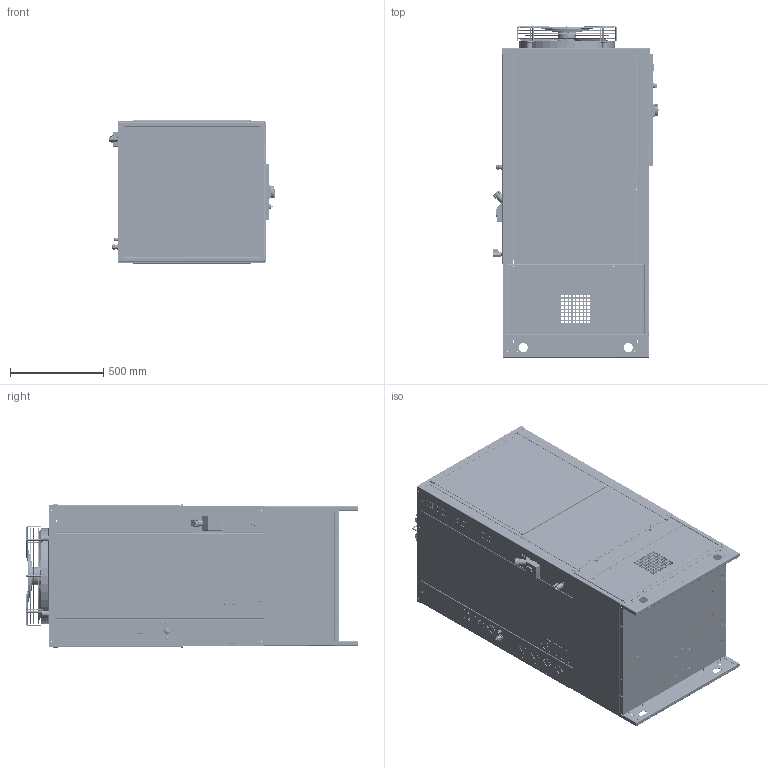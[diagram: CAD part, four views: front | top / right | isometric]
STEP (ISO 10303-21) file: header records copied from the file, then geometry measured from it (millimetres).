
FILE_DESCRIPTION (( 'STEP AP203' ), '1' );
FILE_NAME ('F2H-1C_REV_00.STEP', '2026-07-20T12:55:55', ( '' ), ( '' ), 'SwSTEP 2.0', 'SolidWorks 2023', '' );
FILE_SCHEMA (( 'CONFIG_CONTROL_DESIGN' ));
Length unit declared in the file: millimetre
Products named in the file (86): COPIA_VR-2F-00014_000; COPIA_CR-2F-00007_004; COPIA_CR-2F-00006_002B; COPIA_350-012-C; COPIA_AN-PI-00022; COPIA_IN-VI-00001; COPIA_6D-400-S-012_2_AF0; COPIA_VE-W5-00007_01; COPIA_350-450-031; COPIA_50-2F-00003; COPIA_VR-2F-00015_000; COPIA_VR-2F-00012_001C; COPIA_TE-EL-00018; COPIA_VR-2F-00005_003; COPIA_VR-2F-00012_001B; COPIA_CR-2F-00006_003; COPIA_S82b-0690_DX; COPIA_VR-2F-00012_001D_68X34; COPIA_6D-400-S-018-2_22_AF0; COPIA_H48-0020_DX; COPIA_H48-0024_DX; COPIA_VR-2F-00002_001; COPIA_B72-0268_DX; COPIA_T09-0146_DX; COPIA_Y0-CD0232_DX; COPIA_MOUSSE_ADESIVA_20X10_L645; COPIA_COMPONENTI_VENTOLA_40-MI-E0007; COPIA_G82-0010_DX; COPIA_VE-W5-00007_03; COPIA_CO-MI-00016  X0-CD0232-00(2)_DX_senza bicchiere; COPIA_T04-0187_DX; COPIA_VR-2F-00012_001; COPIA_VR-2F-00011_000; COPIA_VR-2F-00003_001; COPIA_PG 9_2_Nut-PA-Grey-19-19-22-Nelco; COPIA_PiedeCondensatoreDanfossD38; COPIA_SEZIONATORE-GR_D2; COPIA_WE-W5-00007; COPIA_VE-W5-00007_CESTELLO; COPIA_CR-QU-00040_000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
Assembly tree (169 placements, depth 8):
  F2H-1C_REV_00
    COPIA_40-MI-E0007_40-MI-E0007_SENZA_BASE
      COPIA_50-2F-00001-2_50-2F-00001_SENZA_BASE
        COPIA_VR-2F-00007_004
        COPIA_VR-2F-00008_003
        COPIA_VR-2F-00005_003
        COPIA_VR-2F-00006_003
        COPIA_CR-2F-00005_004
        COPIA_CR-2F-00006_003
          COPIA_CR-2F-00006_003A
          COPIA_CR-2F-00006_002B
        COPIA_VR-2F-00009_001
        COPIA_CR-2F-00007_004
          COPIA_CR-2F-00007_004
          COPIA_RIVELOX M5  x6
        COPIA_VR-2F-00010_000
        COPIA_VASCHETTA F2 COND DX 32_senza bicchiere
          COPIA_CO-MI-00016  X0-CD0232-00_DX_senza bicchiere 
            COPIA_CO-MI-00016  X0-CD0232-00(2)_DX_senza bicchiere
              COPIA_Y0-CD0232_DX
                COPIA_H48-0020_DX
                COPIA_H48-0024_DX
                COPIA_S82b-0690_DX  x10
                COPIA_B72-0268_DX  x10
                COPIA_D01-CD0230P_DX  x2
                COPIA_T03-0044_DX  x3
                COPIA_T04-0187_DX  x4
                COPIA_T06-0208_DX
                COPIA_T06-0207_DX
              COPIA_G82-0010_DX
              COPIA_G72-0024_DX
              COPIA_T09-0001_DX
              COPIA_T09-0146_DX
              COPIA_T09-0002_DX
          COPIA_PiedeCondensatoreDanfossD38  x4
          COPIA_CR-2F-00004_001
          COPIA_CR-2F-00003_000
        COPIA_VR-2F-00011_000
        COPIA_VR-2F-00012_001  x2
          COPIA_VR-2F-00012_001D_68X34
          COPIA_VR-2F-00012_001C
          COPIA_VR-2F-00012_001B
        COPIA_FI-A4-00001_000  x2
        COPIA_VR-2F-00002_001
        COPIA_MOUSSE_ADESIVA_20X10_L645  x2
        COPIA_MOUSSE_ADESIVA_20X10_L659  x2
        COPIA_CR-2F-00008
      COPIA_COMPONENTI_VENTOLA_40-MI-E0007
        COPIA_AN-PI-00022  x4
        COPIA_WE-W5-00007
          COPIA_350-012-C
          COPIA_6D-400-S-018-2_22_AF0
          COPIA_PRT0002_11_AF0
          COPIA_6D-400-S-012_2_AF0
          COPIA_350-450-031
          COPIA_VE-W5-00007_ELICA
          COPIA_350-022
          COPIA_VE-W5-00007_CESTELLO
            COPIA_VE-W5-00007_01  x4
            COPIA_VE-W5-00007_02  x8
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Bounding box: 891.59 x 1776.2 x 767 mm (x, y, z)
Volume: 17486218.4 mm3; surface area: 25210305 mm2
Topology: 314 solids, 409 shells, 18477 faces, 48160 edges, 30383 vertices
Faces by surface type: plane 9783, cylinder 4261, bspline 2927, cone 897, torus 498, sphere 111
Entity records: 624395 total; most frequent: CARTESIAN_POINT 278522, ORIENTED_EDGE 76471, DIRECTION 57326, EDGE_CURVE 38457, VERTEX_POINT 24184, LINE 19578, VECTOR 19578, AXIS2_PLACEMENT_3D 18874
